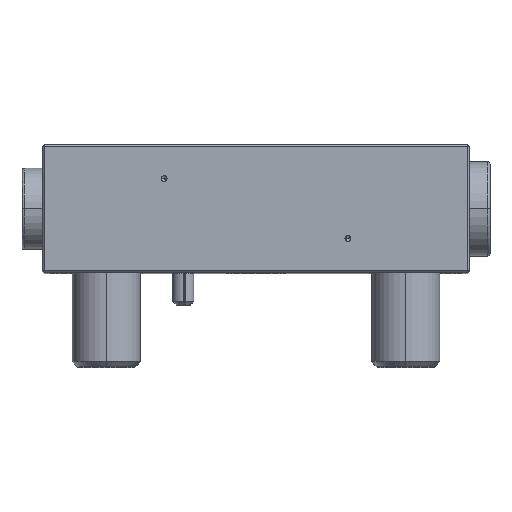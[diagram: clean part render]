
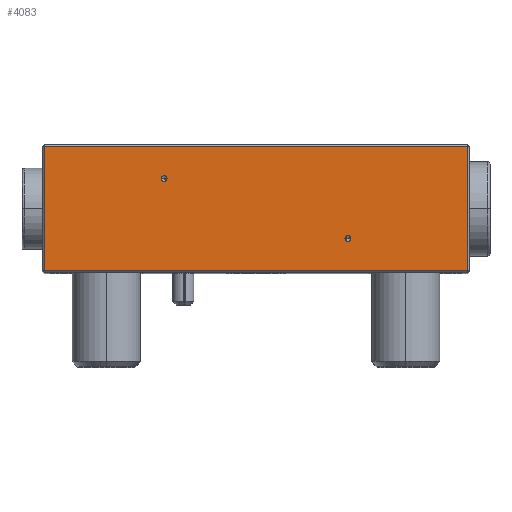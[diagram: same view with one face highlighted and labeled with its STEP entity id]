
A CAD part, top view. The second image highlights one B-rep face of the part: STEP entity #4083.
In plain terms, the highlighted planar face has unit normal (0, 0, 1).
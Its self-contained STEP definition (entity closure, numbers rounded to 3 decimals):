
#115 = CARTESIAN_POINT ( 'NONE',  ( 49.5, -14.5, 50. ) ) ;
#431 = AXIS2_PLACEMENT_3D ( 'NONE', #6584, #13403, #6359 ) ;
#475 = FACE_BOUND ( 'NONE', #5150, .T. ) ;
#917 = DIRECTION ( 'NONE',  ( 1., 0., 0. ) ) ;
#930 = DIRECTION ( 'NONE',  ( 0., 0., 1. ) ) ;
#959 = CARTESIAN_POINT ( 'NONE',  ( 21.5, -7., 50. ) ) ;
#1057 = CIRCLE ( 'NONE', #431, 0.7 ) ;
#1241 = LINE ( 'NONE', #4723, #7040 ) ;
#1380 = CARTESIAN_POINT ( 'NONE',  ( 49.5, -15., 50. ) ) ;
#1486 = DIRECTION ( 'NONE',  ( 0., 1., 0. ) ) ;
#1898 = ORIENTED_EDGE ( 'NONE', *, *, #13488, .F. ) ;
#1911 = AXIS2_PLACEMENT_3D ( 'NONE', #3894, #3827, #11817 ) ;
#2235 = DIRECTION ( 'NONE',  ( -1., 0., 0. ) ) ;
#2252 = ORIENTED_EDGE ( 'NONE', *, *, #9604, .T. ) ;
#2283 = DIRECTION ( 'NONE',  ( 0., 0., -1. ) ) ;
#2339 = CARTESIAN_POINT ( 'NONE',  ( 50., -15., 50. ) ) ;
#2483 = ORIENTED_EDGE ( 'NONE', *, *, #9621, .F. ) ;
#2608 = PLANE ( 'NONE',  #4261 ) ;
#2792 = VERTEX_POINT ( 'NONE', #11911 ) ;
#2831 = ORIENTED_EDGE ( 'NONE', *, *, #10145, .T. ) ;
#3299 = AXIS2_PLACEMENT_3D ( 'NONE', #959, #930, #917 ) ;
#3339 = CARTESIAN_POINT ( 'NONE',  ( 22.2, -7., 50. ) ) ;
#3827 = DIRECTION ( 'NONE',  ( 0., 0., 1. ) ) ;
#3894 = CARTESIAN_POINT ( 'NONE',  ( 21.5, -7., 50. ) ) ;
#3933 = VECTOR ( 'NONE', #10521, 1000. ) ;
#4083 = ADVANCED_FACE ( 'NONE', ( #10243, #475, #8968 ), #2608, .F. ) ;
#4261 = AXIS2_PLACEMENT_3D ( 'NONE', #2339, #2283, #2235 ) ;
#4291 = ORIENTED_EDGE ( 'NONE', *, *, #10410, .T. ) ;
#4706 = DIRECTION ( 'NONE',  ( 1., 0., 0. ) ) ;
#4723 = CARTESIAN_POINT ( 'NONE',  ( 50., -14.5, 50. ) ) ;
#4896 = ORIENTED_EDGE ( 'NONE', *, *, #8927, .F. ) ;
#5150 = EDGE_LOOP ( 'NONE', ( #4896, #1898 ) ) ;
#5601 = VERTEX_POINT ( 'NONE', #115 ) ;
#5712 = EDGE_LOOP ( 'NONE', ( #7248, #2831, #2252, #4291 ) ) ;
#5887 = CIRCLE ( 'NONE', #6470, 0.7 ) ;
#6359 = DIRECTION ( 'NONE',  ( 1., 0., 0. ) ) ;
#6420 = EDGE_CURVE ( 'NONE', #12254, #12933, #11199, .T. ) ;
#6435 = EDGE_LOOP ( 'NONE', ( #2483, #6707 ) ) ;
#6470 = AXIS2_PLACEMENT_3D ( 'NONE', #10208, #10192, #10177 ) ;
#6584 = CARTESIAN_POINT ( 'NONE',  ( -21.5, 7., 50. ) ) ;
#6707 = ORIENTED_EDGE ( 'NONE', *, *, #6420, .F. ) ;
#7040 = VECTOR ( 'NONE', #4706, 1000. ) ;
#7248 = ORIENTED_EDGE ( 'NONE', *, *, #9980, .T. ) ;
#8586 = CARTESIAN_POINT ( 'NONE',  ( -22.2, 7., 50. ) ) ;
#8801 = CARTESIAN_POINT ( 'NONE',  ( 50., 14.5, 50. ) ) ;
#8927 = EDGE_CURVE ( 'NONE', #2792, #13581, #1057, .T. ) ;
#8968 = FACE_BOUND ( 'NONE', #6435, .T. ) ;
#8975 = LINE ( 'NONE', #8801, #3933 ) ;
#9145 = CARTESIAN_POINT ( 'NONE',  ( -49.5, -15., 50. ) ) ;
#9162 = DIRECTION ( 'NONE',  ( 0., -1., 0. ) ) ;
#9604 = EDGE_CURVE ( 'NONE', #5601, #14183, #12854, .T. ) ;
#9621 = EDGE_CURVE ( 'NONE', #12933, #12254, #12812, .T. ) ;
#9980 = EDGE_CURVE ( 'NONE', #12022, #12265, #10441, .T. ) ;
#10145 = EDGE_CURVE ( 'NONE', #12265, #5601, #1241, .T. ) ;
#10177 = DIRECTION ( 'NONE',  ( 1., 0., 0. ) ) ;
#10192 = DIRECTION ( 'NONE',  ( 0., 0., 1. ) ) ;
#10208 = CARTESIAN_POINT ( 'NONE',  ( -21.5, 7., 50. ) ) ;
#10243 = FACE_OUTER_BOUND ( 'NONE', #5712, .T. ) ;
#10384 = VECTOR ( 'NONE', #9162, 1000. ) ;
#10410 = EDGE_CURVE ( 'NONE', #14183, #12022, #8975, .T. ) ;
#10441 = LINE ( 'NONE', #9145, #10384 ) ;
#10521 = DIRECTION ( 'NONE',  ( -1., 0., 0. ) ) ;
#11199 = CIRCLE ( 'NONE', #1911, 0.7 ) ;
#11817 = DIRECTION ( 'NONE',  ( 1., 0., 0. ) ) ;
#11911 = CARTESIAN_POINT ( 'NONE',  ( -20.8, 7., 50. ) ) ;
#12022 = VERTEX_POINT ( 'NONE', #12805 ) ;
#12254 = VERTEX_POINT ( 'NONE', #14067 ) ;
#12265 = VERTEX_POINT ( 'NONE', #14002 ) ;
#12805 = CARTESIAN_POINT ( 'NONE',  ( -49.5, 14.5, 50. ) ) ;
#12812 = CIRCLE ( 'NONE', #3299, 0.7 ) ;
#12828 = VECTOR ( 'NONE', #1486, 1000. ) ;
#12854 = LINE ( 'NONE', #1380, #12828 ) ;
#12933 = VERTEX_POINT ( 'NONE', #3339 ) ;
#13324 = CARTESIAN_POINT ( 'NONE',  ( 49.5, 14.5, 50. ) ) ;
#13403 = DIRECTION ( 'NONE',  ( 0., 0., 1. ) ) ;
#13488 = EDGE_CURVE ( 'NONE', #13581, #2792, #5887, .T. ) ;
#13581 = VERTEX_POINT ( 'NONE', #8586 ) ;
#14002 = CARTESIAN_POINT ( 'NONE',  ( -49.5, -14.5, 50. ) ) ;
#14067 = CARTESIAN_POINT ( 'NONE',  ( 20.8, -7., 50. ) ) ;
#14183 = VERTEX_POINT ( 'NONE', #13324 ) ;
